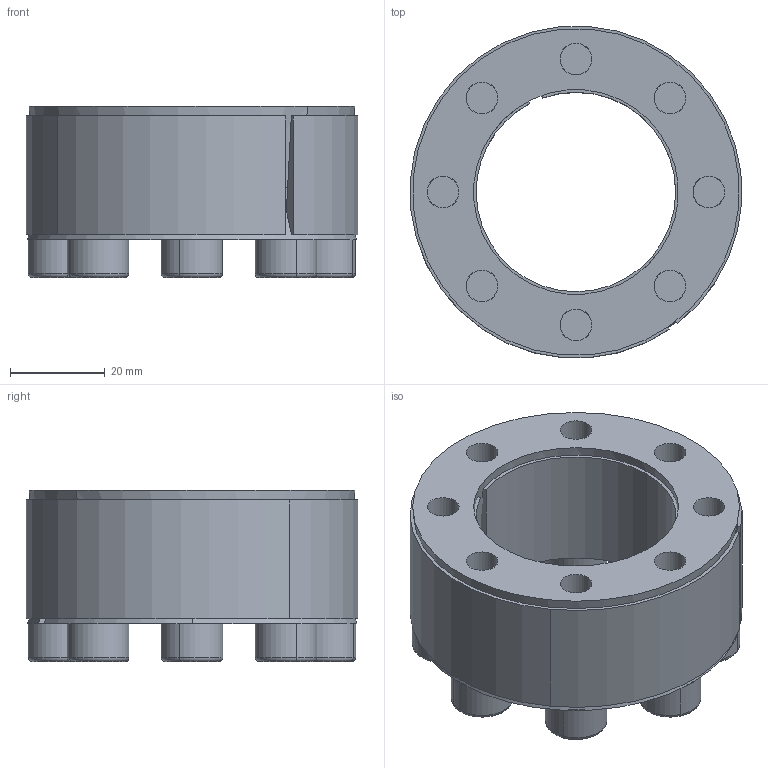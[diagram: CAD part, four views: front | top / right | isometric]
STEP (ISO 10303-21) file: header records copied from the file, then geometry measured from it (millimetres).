
FILE_DESCRIPTION (( 'STEP AP214' ), '1' );
FILE_NAME ('CONEX-L-42x70.step', '2013-04-06T13:22:50', ( 'Pc' ), ( '' ), 'SwSTEP 2.0', 'SolidWorks 2013', '' );
FILE_SCHEMA (( 'AUTOMOTIVE_DESIGN' ));
Length unit declared in the file: millimetre
Products named in the file (1): CONEX-L-42x70
Bounding box: 69.83 x 69.76 x 36.03 mm (x, y, z)
Volume: 66985.9 mm3; surface area: 45293.4 mm2
Topology: 11 solids, 11 shells, 289 faces, 663 edges, 396 vertices
Faces by surface type: plane 131, cylinder 78, cone 48, torus 32
Entity records: 11430 total; most frequent: DIRECTION 1532, CARTESIAN_POINT 1366, ORIENTED_EDGE 1294, EDGE_CURVE 647, AXIS2_PLACEMENT_3D 603, VERTEX_POINT 396, EDGE_LOOP 347, LINE 326
